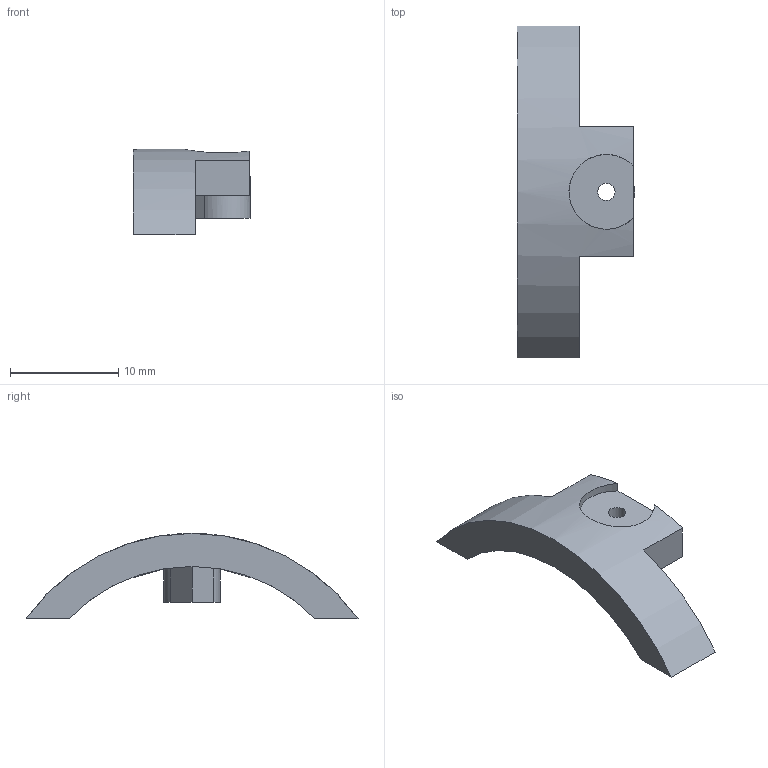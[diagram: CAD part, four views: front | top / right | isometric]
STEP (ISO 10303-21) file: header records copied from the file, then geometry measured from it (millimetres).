
FILE_DESCRIPTION(('SkyG Speed 90B - revision C6B-4 - 2026-10-08','HL1-hatch-lip-front'),'2;1');
FILE_NAME('HL1-hatch-lip-front_C6B-4','2026-10-08T07:02:32',('Author'),( 'Open CASCADE'),'Open CASCADE STEP processor 7.9','Open CASCADE 7.9' ,'Unknown');
FILE_SCHEMA(('AUTOMOTIVE_DESIGN { 1 0 10303 214 1 1 1 1 }'));
Length unit declared in the file: millimetre
Products named in the file (1): HL1-hatch-lip-front C6B-4
Bounding box: 10.8 x 30.62 x 7.85 mm (x, y, z)
Volume: 752.2 mm3; surface area: 823.9 mm2
Topology: 1 solids, 1 shells, 18 faces, 52 edges, 36 vertices
Faces by surface type: plane 13, cylinder 5
Full cylindrical faces by diameter (mm): 1.6 x1
Entity records: 1640 total; most frequent: CARTESIAN_POINT 677, DIRECTION 153, ORIENTED_EDGE 104, PCURVE 104, DEFINITIONAL_REPRESENTATION 104, LINE 61, VECTOR 61, B_SPLINE_CURVE_WITH_KNOTS 57
